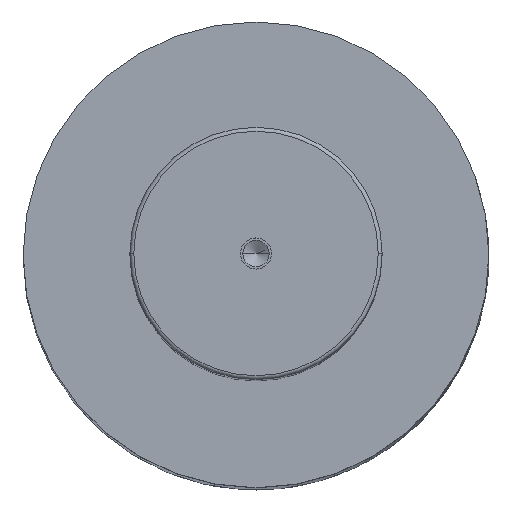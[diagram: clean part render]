
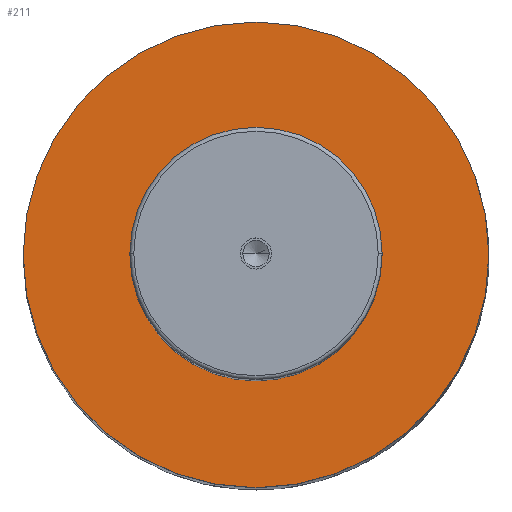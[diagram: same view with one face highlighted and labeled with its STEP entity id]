
A CAD part, top view. The second image highlights one B-rep face of the part: STEP entity #211.
In plain terms, the highlighted planar face has unit normal (0, 0, 1).
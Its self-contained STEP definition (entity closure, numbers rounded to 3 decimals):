
#109=PLANE('',#1266);
#138=FACE_BOUND('',#359,.T.);
#139=FACE_BOUND('',#360,.T.);
#211=ADVANCED_FACE('',(#138,#139),#109,.T.);
#359=EDGE_LOOP('',(#571,#572));
#360=EDGE_LOOP('',(#573,#574));
#451=CIRCLE('',#1260,32.5);
#452=CIRCLE('',#1262,32.5);
#453=CIRCLE('',#1264,60.);
#454=CIRCLE('',#1265,60.);
#571=ORIENTED_EDGE('',*,*,#970,.F.);
#572=ORIENTED_EDGE('',*,*,#971,.F.);
#573=ORIENTED_EDGE('',*,*,#969,.T.);
#574=ORIENTED_EDGE('',*,*,#967,.T.);
#856=VERTEX_POINT('',#1837);
#857=VERTEX_POINT('',#1839);
#858=VERTEX_POINT('',#1845);
#859=VERTEX_POINT('',#1846);
#967=EDGE_CURVE('',#857,#856,#451,.T.);
#969=EDGE_CURVE('',#856,#857,#452,.T.);
#970=EDGE_CURVE('',#858,#859,#453,.T.);
#971=EDGE_CURVE('',#859,#858,#454,.T.);
#1260=AXIS2_PLACEMENT_3D('',#1838,#1456,#1457);
#1262=AXIS2_PLACEMENT_3D('',#1842,#1461,#1462);
#1264=AXIS2_PLACEMENT_3D('',#1844,#1465,#1466);
#1265=AXIS2_PLACEMENT_3D('',#1847,#1467,#1468);
#1266=AXIS2_PLACEMENT_3D('',#1848,#1469,#1470);
#1456=DIRECTION('',(0.,0.,-1.));
#1457=DIRECTION('',(0.,1.,0.));
#1461=DIRECTION('',(0.,0.,-1.));
#1462=DIRECTION('',(0.,-1.,0.));
#1465=DIRECTION('',(0.,0.,-1.));
#1466=DIRECTION('',(0.,1.,0.));
#1467=DIRECTION('',(0.,0.,-1.));
#1468=DIRECTION('',(0.,-1.,0.));
#1469=DIRECTION('',(0.,0.,1.));
#1470=DIRECTION('',(0.,-1.,0.));
#1837=CARTESIAN_POINT('',(-32.5,0.,337.));
#1838=CARTESIAN_POINT('',(0.,0.,337.));
#1839=CARTESIAN_POINT('',(32.5,0.,337.));
#1842=CARTESIAN_POINT('',(0.,0.,337.));
#1844=CARTESIAN_POINT('',(0.,0.,337.));
#1845=CARTESIAN_POINT('',(60.,0.,337.));
#1846=CARTESIAN_POINT('',(-60.,0.,337.));
#1847=CARTESIAN_POINT('',(0.,0.,337.));
#1848=CARTESIAN_POINT('',(0.,0.,337.));
